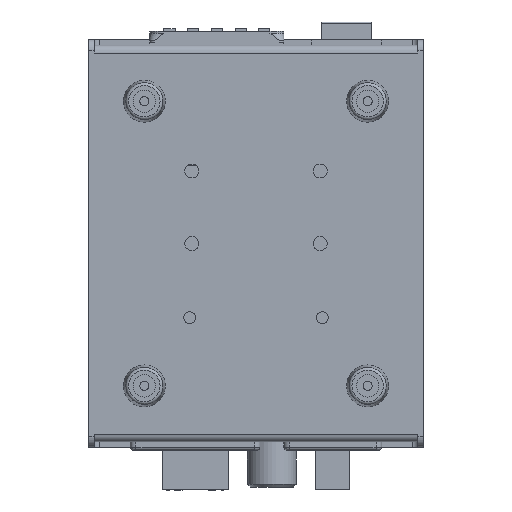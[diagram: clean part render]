
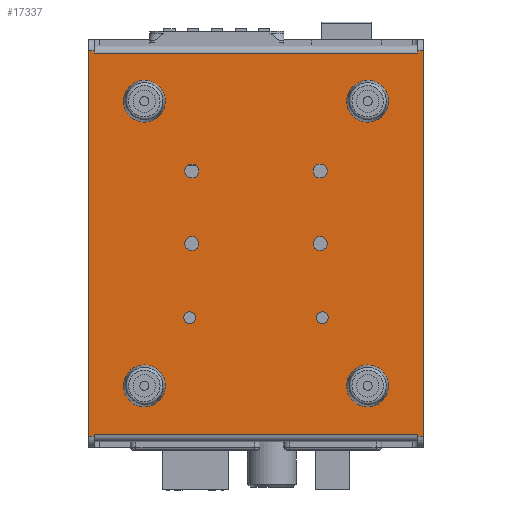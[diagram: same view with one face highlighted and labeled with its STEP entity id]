
A CAD part, front view. The second image highlights one B-rep face of the part: STEP entity #17337.
In plain terms, the highlighted planar face has unit normal (0, -1, 0).
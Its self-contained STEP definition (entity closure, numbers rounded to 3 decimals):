
#17337=ADVANCED_FACE('',(#30437,#30438,#30439,#30440,#30441,#30442,#30443,
#30444,#30445,#30446,#30447),#19476,.T.);
#19476=PLANE('',#55077);
#21191=LINE('',#68639,#25814);
#21192=LINE('',#68642,#25815);
#21193=LINE('',#68644,#25816);
#21194=LINE('',#68646,#25817);
#21195=LINE('',#68648,#25818);
#21196=LINE('',#68650,#25819);
#21197=LINE('',#68652,#25820);
#21198=LINE('',#68654,#25821);
#21199=LINE('',#68656,#25822);
#21200=LINE('',#68658,#25823);
#21201=LINE('',#68660,#25824);
#21202=LINE('',#68662,#25825);
#25814=VECTOR('',#58055,1.);
#25815=VECTOR('',#58056,1.);
#25816=VECTOR('',#58057,1.);
#25817=VECTOR('',#58058,1.);
#25818=VECTOR('',#58059,1.);
#25819=VECTOR('',#58060,1.);
#25820=VECTOR('',#58061,1.);
#25821=VECTOR('',#58062,1.);
#25822=VECTOR('',#58063,1.);
#25823=VECTOR('',#58064,1.);
#25824=VECTOR('',#58065,1.);
#25825=VECTOR('',#58066,1.);
#30437=FACE_BOUND('',#31313,.T.);
#30438=FACE_BOUND('',#31314,.T.);
#30439=FACE_BOUND('',#31315,.T.);
#30440=FACE_BOUND('',#31316,.T.);
#30441=FACE_BOUND('',#31317,.T.);
#30442=FACE_BOUND('',#31318,.T.);
#30443=FACE_BOUND('',#31319,.T.);
#30444=FACE_BOUND('',#31320,.T.);
#30445=FACE_BOUND('',#31321,.T.);
#30446=FACE_BOUND('',#31322,.T.);
#30447=FACE_BOUND('',#31323,.T.);
#31313=EDGE_LOOP('',(#34070));
#31314=EDGE_LOOP('',(#34071));
#31315=EDGE_LOOP('',(#34072));
#31316=EDGE_LOOP('',(#34073,#34074,#34075,#34076,#34077,#34078,#34079,#34080,
#34081,#34082,#34083,#34084));
#31317=EDGE_LOOP('',(#34085));
#31318=EDGE_LOOP('',(#34086));
#31319=EDGE_LOOP('',(#34087));
#31320=EDGE_LOOP('',(#34088));
#31321=EDGE_LOOP('',(#34089));
#31322=EDGE_LOOP('',(#34090));
#31323=EDGE_LOOP('',(#34091));
#34070=ORIENTED_EDGE('',*,*,#48731,.F.);
#34071=ORIENTED_EDGE('',*,*,#48732,.F.);
#34072=ORIENTED_EDGE('',*,*,#48733,.F.);
#34073=ORIENTED_EDGE('',*,*,#48734,.T.);
#34074=ORIENTED_EDGE('',*,*,#48735,.F.);
#34075=ORIENTED_EDGE('',*,*,#48736,.T.);
#34076=ORIENTED_EDGE('',*,*,#48737,.T.);
#34077=ORIENTED_EDGE('',*,*,#48738,.T.);
#34078=ORIENTED_EDGE('',*,*,#48739,.F.);
#34079=ORIENTED_EDGE('',*,*,#48740,.F.);
#34080=ORIENTED_EDGE('',*,*,#48741,.T.);
#34081=ORIENTED_EDGE('',*,*,#48742,.T.);
#34082=ORIENTED_EDGE('',*,*,#48743,.F.);
#34083=ORIENTED_EDGE('',*,*,#48744,.T.);
#34084=ORIENTED_EDGE('',*,*,#48745,.T.);
#34085=ORIENTED_EDGE('',*,*,#48746,.T.);
#34086=ORIENTED_EDGE('',*,*,#48747,.T.);
#34087=ORIENTED_EDGE('',*,*,#48748,.F.);
#34088=ORIENTED_EDGE('',*,*,#48749,.F.);
#34089=ORIENTED_EDGE('',*,*,#48750,.F.);
#34090=ORIENTED_EDGE('',*,*,#48751,.F.);
#34091=ORIENTED_EDGE('',*,*,#48752,.F.);
#45034=VERTEX_POINT('',#68634);
#45035=VERTEX_POINT('',#68636);
#45036=VERTEX_POINT('',#68638);
#45037=VERTEX_POINT('',#68640);
#45038=VERTEX_POINT('',#68641);
#45039=VERTEX_POINT('',#68643);
#45040=VERTEX_POINT('',#68645);
#45041=VERTEX_POINT('',#68647);
#45042=VERTEX_POINT('',#68649);
#45043=VERTEX_POINT('',#68651);
#45044=VERTEX_POINT('',#68653);
#45045=VERTEX_POINT('',#68655);
#45046=VERTEX_POINT('',#68657);
#45047=VERTEX_POINT('',#68659);
#45048=VERTEX_POINT('',#68661);
#45049=VERTEX_POINT('',#68664);
#45050=VERTEX_POINT('',#68666);
#45051=VERTEX_POINT('',#68668);
#45052=VERTEX_POINT('',#68670);
#45053=VERTEX_POINT('',#68672);
#45054=VERTEX_POINT('',#68674);
#45055=VERTEX_POINT('',#68676);
#48731=EDGE_CURVE('',#45034,#45034,#54213,.T.);
#48732=EDGE_CURVE('',#45035,#45035,#54214,.T.);
#48733=EDGE_CURVE('',#45036,#45036,#54215,.T.);
#48734=EDGE_CURVE('',#45037,#45038,#21191,.T.);
#48735=EDGE_CURVE('',#45039,#45038,#21192,.T.);
#48736=EDGE_CURVE('',#45039,#45040,#21193,.T.);
#48737=EDGE_CURVE('',#45040,#45041,#21194,.T.);
#48738=EDGE_CURVE('',#45041,#45042,#21195,.T.);
#48739=EDGE_CURVE('',#45043,#45042,#21196,.T.);
#48740=EDGE_CURVE('',#45044,#45043,#21197,.T.);
#48741=EDGE_CURVE('',#45044,#45045,#21198,.T.);
#48742=EDGE_CURVE('',#45045,#45046,#21199,.T.);
#48743=EDGE_CURVE('',#45047,#45046,#21200,.T.);
#48744=EDGE_CURVE('',#45047,#45048,#21201,.T.);
#48745=EDGE_CURVE('',#45048,#45037,#21202,.T.);
#48746=EDGE_CURVE('',#45049,#45049,#54216,.T.);
#48747=EDGE_CURVE('',#45050,#45050,#54217,.T.);
#48748=EDGE_CURVE('',#45051,#45051,#54218,.T.);
#48749=EDGE_CURVE('',#45052,#45052,#54219,.T.);
#48750=EDGE_CURVE('',#45053,#45053,#54220,.T.);
#48751=EDGE_CURVE('',#45054,#45054,#54221,.T.);
#48752=EDGE_CURVE('',#45055,#45055,#54222,.T.);
#54213=CIRCLE('',#55067,7.5);
#54214=CIRCLE('',#55068,7.5);
#54215=CIRCLE('',#55069,7.5);
#54216=CIRCLE('',#55070,2.1);
#54217=CIRCLE('',#55071,2.1);
#54218=CIRCLE('',#55072,2.5);
#54219=CIRCLE('',#55073,2.5);
#54220=CIRCLE('',#55074,2.5);
#54221=CIRCLE('',#55075,2.5);
#54222=CIRCLE('',#55076,7.5);
#55067=AXIS2_PLACEMENT_3D('',#68633,#58049,#58050);
#55068=AXIS2_PLACEMENT_3D('',#68635,#58051,#58052);
#55069=AXIS2_PLACEMENT_3D('',#68637,#58053,#58054);
#55070=AXIS2_PLACEMENT_3D('',#68663,#58067,#58068);
#55071=AXIS2_PLACEMENT_3D('',#68665,#58069,#58070);
#55072=AXIS2_PLACEMENT_3D('',#68667,#58071,#58072);
#55073=AXIS2_PLACEMENT_3D('',#68669,#58073,#58074);
#55074=AXIS2_PLACEMENT_3D('',#68671,#58075,#58076);
#55075=AXIS2_PLACEMENT_3D('',#68673,#58077,#58078);
#55076=AXIS2_PLACEMENT_3D('',#68675,#58079,#58080);
#55077=AXIS2_PLACEMENT_3D('',#68677,#58081,#58082);
#58049=DIRECTION('',(0.,-1.,0.));
#58050=DIRECTION('',(0.,0.,-1.));
#58051=DIRECTION('',(0.,-1.,0.));
#58052=DIRECTION('',(0.,0.,-1.));
#58053=DIRECTION('',(0.,-1.,0.));
#58054=DIRECTION('',(0.,0.,-1.));
#58055=DIRECTION('',(1.,0.,0.));
#58056=DIRECTION('',(0.,0.,1.));
#58057=DIRECTION('',(1.,0.,0.));
#58058=DIRECTION('',(0.,0.,1.));
#58059=DIRECTION('',(-1.,0.,0.));
#58060=DIRECTION('',(0.,0.,1.));
#58061=DIRECTION('',(1.,0.,0.));
#58062=DIRECTION('',(0.,0.,1.));
#58063=DIRECTION('',(-1.,0.,0.));
#58064=DIRECTION('',(0.,0.,1.));
#58065=DIRECTION('',(1.,0.,0.));
#58066=DIRECTION('',(0.,0.,1.));
#58067=DIRECTION('',(0.,1.,0.));
#58068=DIRECTION('',(0.,0.,-1.));
#58069=DIRECTION('',(0.,1.,0.));
#58070=DIRECTION('',(0.,0.,-1.));
#58071=DIRECTION('',(0.,-1.,0.));
#58072=DIRECTION('',(0.,0.,1.));
#58073=DIRECTION('',(0.,-1.,0.));
#58074=DIRECTION('',(0.,0.,1.));
#58075=DIRECTION('',(0.,-1.,0.));
#58076=DIRECTION('',(0.,0.,1.));
#58077=DIRECTION('',(0.,-1.,0.));
#58078=DIRECTION('',(0.,0.,1.));
#58079=DIRECTION('',(0.,-1.,0.));
#58080=DIRECTION('',(0.,0.,-1.));
#58081=DIRECTION('',(0.,-1.,0.));
#58082=DIRECTION('',(0.,0.,1.));
#68633=CARTESIAN_POINT('',(-24.,-37.,-123.));
#68634=CARTESIAN_POINT('',(-24.,-37.,-130.5));
#68635=CARTESIAN_POINT('',(-24.,-37.,-21.));
#68636=CARTESIAN_POINT('',(-24.,-37.,-28.5));
#68637=CARTESIAN_POINT('',(56.,-37.,-123.));
#68638=CARTESIAN_POINT('',(56.,-37.,-130.5));
#68639=CARTESIAN_POINT('',(-42.,-37.,-140.263));
#68640=CARTESIAN_POINT('',(-42.,-37.,-140.263));
#68641=CARTESIAN_POINT('',(74.,-37.,-140.263));
#68642=CARTESIAN_POINT('',(74.,-37.,-145.));
#68643=CARTESIAN_POINT('',(74.,-37.,-141.));
#68644=CARTESIAN_POINT('',(74.,-37.,-141.));
#68645=CARTESIAN_POINT('',(76.,-37.,-141.));
#68646=CARTESIAN_POINT('',(76.,-37.,-145.));
#68647=CARTESIAN_POINT('',(76.,-37.,-3.));
#68648=CARTESIAN_POINT('',(74.,-37.,-3.));
#68649=CARTESIAN_POINT('',(74.,-37.,-3.));
#68650=CARTESIAN_POINT('',(74.,-37.,-145.));
#68651=CARTESIAN_POINT('',(74.,-37.,-3.737));
#68652=CARTESIAN_POINT('',(-42.,-37.,-3.737));
#68653=CARTESIAN_POINT('',(-42.,-37.,-3.737));
#68654=CARTESIAN_POINT('',(-42.,-37.,-145.));
#68655=CARTESIAN_POINT('',(-42.,-37.,-3.));
#68656=CARTESIAN_POINT('',(-44.,-37.,-3.));
#68657=CARTESIAN_POINT('',(-44.,-37.,-3.));
#68658=CARTESIAN_POINT('',(-44.,-37.,-145.));
#68659=CARTESIAN_POINT('',(-44.,-37.,-141.));
#68660=CARTESIAN_POINT('',(-44.,-37.,-141.));
#68661=CARTESIAN_POINT('',(-42.,-37.,-141.));
#68662=CARTESIAN_POINT('',(-42.,-37.,-145.));
#68663=CARTESIAN_POINT('',(39.75,-37.,-98.5));
#68664=CARTESIAN_POINT('',(39.75,-37.,-100.6));
#68665=CARTESIAN_POINT('',(-7.75,-37.,-98.5));
#68666=CARTESIAN_POINT('',(-7.75,-37.,-100.6));
#68667=CARTESIAN_POINT('',(-7.,-37.,-72.));
#68668=CARTESIAN_POINT('',(-7.,-37.,-69.5));
#68669=CARTESIAN_POINT('',(39.,-37.,-46.));
#68670=CARTESIAN_POINT('',(39.,-37.,-43.5));
#68671=CARTESIAN_POINT('',(39.,-37.,-72.));
#68672=CARTESIAN_POINT('',(39.,-37.,-69.5));
#68673=CARTESIAN_POINT('',(-7.,-37.,-46.));
#68674=CARTESIAN_POINT('',(-7.,-37.,-43.5));
#68675=CARTESIAN_POINT('',(56.,-37.,-21.));
#68676=CARTESIAN_POINT('',(56.,-37.,-28.5));
#68677=CARTESIAN_POINT('',(-42.,-37.,-143.));
